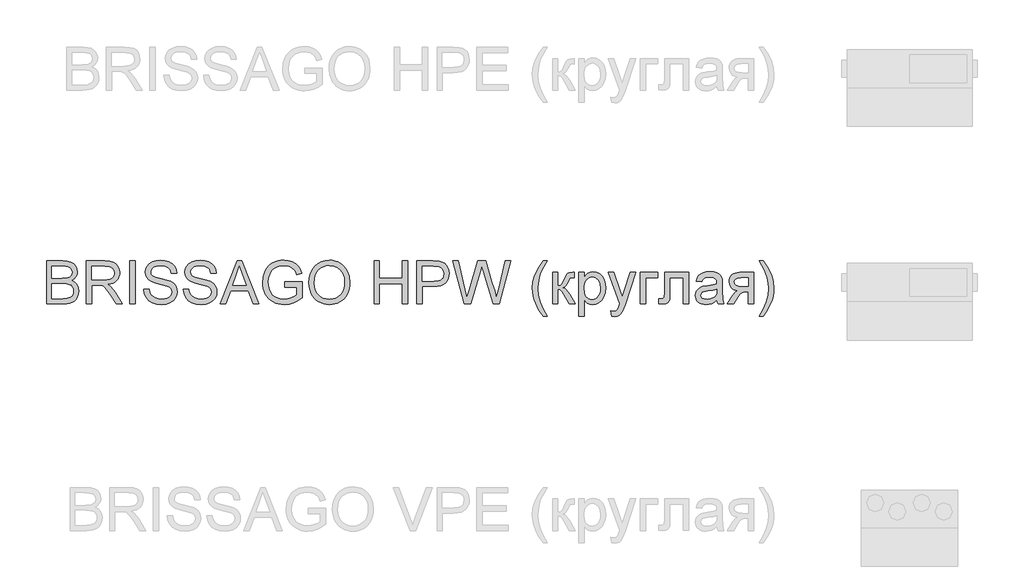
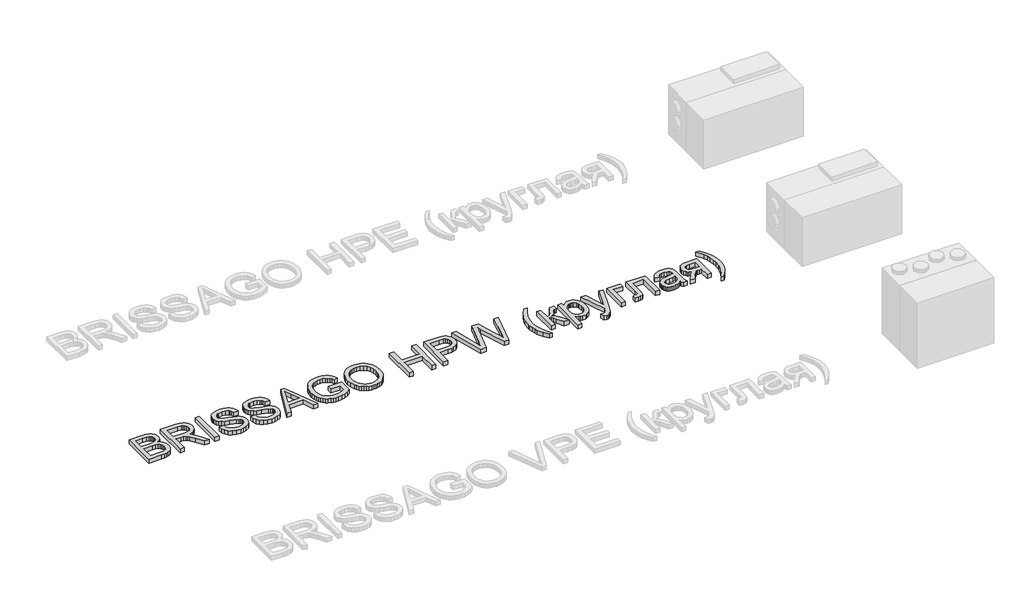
# One storey, part 15 of 28: 1 proxy.
"""IFC4 building model written with IfcOpenShell, lengths in millimetres."""

import ifcopenshell
import ifcopenshell.guid

model = None  # the IFC model being written
_history = None  # IfcOwnerHistory: only IFC2X3 demands one
_inside = {}  # id of a spatial element -> (the spatial element, [elements in it])
_under = {}  # id of a project, library or spatial element -> (it, [spatial elements below it])
_declared = {}  # id of a project -> (the project, [libraries it declares])
_typed = {}  # id of a type object -> (the type object, [elements of that type])
_made_of = {}  # id of a material, layer set ... -> (it, [elements and type objects made of it])


def new_model(schema):
    """Start an empty IFC model of exactly this schema.

    Asked for "IFC4X3", IfcOpenShell would pick the latest addendum, in which some entities
    have other attributes; the version numbers below select the first issue.
    IFC2X3 requires an IfcOwnerHistory on every rooted entity: one is made here for all.
    """
    global model, _history
    if schema == "IFC4X3":
        model = ifcopenshell.file(schema_version=(4, 3, 0, 0))
    else:
        model = ifcopenshell.file(schema=schema)
    _inside.clear()
    _under.clear()
    _declared.clear()
    _typed.clear()
    _made_of.clear()
    _history = None
    if model.schema == "IFC2X3":
        org = make("IfcOrganization", Name="unknown")
        user = make(
            "IfcPersonAndOrganization",
            ThePerson=make("IfcPerson", FamilyName="unknown"),
            TheOrganization=org,
        )
        app = make(
            "IfcApplication",
            ApplicationDeveloper=org,
            Version="unknown",
            ApplicationFullName="unknown",
            ApplicationIdentifier="unknown",
        )
        _history = make(
            "IfcOwnerHistory",
            OwningUser=user,
            OwningApplication=app,
            ChangeAction="ADDED",
            CreationDate=0,
        )
    return model


def make(cls, **values):
    """One entity of the class cls with the attributes given. An attribute that is None is left unset."""
    return model.create_entity(
        cls, **{name: value for name, value in values.items() if value is not None}
    )


def rooted(cls, **values):
    """An entity with a GlobalId (a new one), such as an element, a storey or a relation."""
    return make(cls, GlobalId=ifcopenshell.guid.new(), OwnerHistory=_history, **values)


def si_unit(unit_type, name, prefix=None):
    """IfcSIUnit, for example si_unit("LENGTHUNIT", "METRE", prefix="MILLI")."""
    return make("IfcSIUnit", UnitType=unit_type, Prefix=prefix, Name=name)


def assignment(units):
    """IfcUnitAssignment: the units of a project."""
    return None if units is None else make("IfcUnitAssignment", Units=units)


def point(xyz):
    """IfcCartesianPoint."""
    return None if xyz is None else make("IfcCartesianPoint", Coordinates=xyz)


def direction(xyz):
    """IfcDirection."""
    return None if xyz is None else make("IfcDirection", DirectionRatios=xyz)


def frame(location, z_axis=None, x_axis=None):
    """IfcAxis2Placement3D, a coordinate frame: its origin and axes. An axis left out is left unset."""
    return make(
        "IfcAxis2Placement3D",
        Location=point(location),
        Axis=direction(z_axis),
        RefDirection=direction(x_axis),
    )


def origin():
    """The frame at (0, 0, 0) with its axes left unset."""
    return frame((0.0, 0.0, 0.0))


def origin_with_axes():
    """The frame at (0, 0, 0) with the z axis (0, 0, 1) and the x axis (1, 0, 0) written out."""
    return frame((0.0, 0.0, 0.0), z_axis=(0.0, 0.0, 1.0), x_axis=(1.0, 0.0, 0.0))


def place(relative_to, where):
    """IfcLocalPlacement: puts the frame where relative to a parent placement (None: the world)."""
    return make(
        "IfcLocalPlacement", PlacementRelTo=relative_to, RelativePlacement=where
    )


def context(
    kind, dimensions, precision=None, world=None, true_north=None, identifier=None
):
    """IfcGeometricRepresentationContext, for example the 3D "Model" context."""
    return make(
        "IfcGeometricRepresentationContext",
        ContextIdentifier=identifier,
        ContextType=kind,
        CoordinateSpaceDimension=dimensions,
        Precision=precision,
        WorldCoordinateSystem=world,
        TrueNorth=true_north,
    )


def project(units=None, contexts=None):
    """IfcProject with its units and contexts."""
    return rooted(
        "IfcProject",
        Name="project",
        RepresentationContexts=contexts,
        UnitsInContext=assignment(units),
    )


def spatial(cls, under=None, at=None, **own):
    """A site, building, storey or space (cls), placed at a placement, below another one or the project."""
    s = rooted(cls, ObjectPlacement=at, **own)
    if under is not None:
        _under.setdefault(under.id(), (under, []))[1].append(s)
    return s


def polyline(points):
    """IfcPolyline through the points."""
    return make("IfcPolyline", Points=[point(p) for p in points])


def outline(outer, holes=None, kind="AREA"):
    """IfcArbitraryClosedProfileDef: a profile drawn as a closed curve; with holes, ...WithVoids."""
    if holes is None:
        return make("IfcArbitraryClosedProfileDef", ProfileType=kind, OuterCurve=outer)
    return make(
        "IfcArbitraryProfileDefWithVoids",
        ProfileType=kind,
        OuterCurve=outer,
        InnerCurves=holes,
    )


def extrude(swept, where, along, depth):
    """IfcExtrudedAreaSolid: the profile swept, set in the frame where, extruded along a direction by depth."""
    return make(
        "IfcExtrudedAreaSolid",
        SweptArea=swept,
        Position=where,
        ExtrudedDirection=direction(along),
        Depth=depth,
    )


def shape(context_of_items, identifier, shape_type, items):
    """IfcShapeRepresentation: the items that make up one representation, for example the "Body"."""
    return make(
        "IfcShapeRepresentation",
        ContextOfItems=context_of_items,
        RepresentationIdentifier=identifier,
        RepresentationType=shape_type,
        Items=items,
    )


def made_of(thing, what):
    """Note that an element or type object is made of a material, layer set ...; save() writes the relation."""
    if what is not None:
        _made_of.setdefault(what.id(), (what, []))[1].append(thing)
    return thing


def element(
    cls,
    number,
    at=None,
    inside=None,
    cuts=None,
    type_object=None,
    material=None,
    context=None,
    identifier="Body",
    shape_type=None,
    held_by="IfcProductDefinitionShape",
    body=None,
    shapes=None,
    **own,
):
    """One element of the class cls, such as IfcWall. Its Tag is "e" and its number.

    at: its placement. inside: the storey or other place that contains it. cuts: it is an
    opening in that element (IfcRelVoidsElement). A single representation is given by context,
    identifier, shape_type and body (its items); several are given by shapes. held_by: the class
    of the entity that holds the representations. save() writes the other relations.
    """
    e = rooted(cls, Tag="e%d" % number, ObjectPlacement=at, **own)
    if body is not None:
        shapes = [shape(context, identifier, shape_type, body)]
    if shapes is not None:
        e.Representation = make(held_by, Representations=shapes)
    if inside is not None:
        _inside.setdefault(inside.id(), (inside, []))[1].append(e)
    if cuts is not None:
        rooted(
            "IfcRelVoidsElement", RelatingBuildingElement=cuts, RelatedOpeningElement=e
        )
    if type_object is not None:
        _typed.setdefault(type_object.id(), (type_object, []))[1].append(e)
    return made_of(e, material)


def aggregate(whole, parts):
    """IfcRelAggregates: a whole, such as a stair, and the parts it consists of."""
    return rooted("IfcRelAggregates", RelatingObject=whole, RelatedObjects=parts)


def save(model, path):
    """Write the relations noted so far, then the file.

    IfcRelAggregates (storeys below a building ...), IfcRelContainedInSpatialStructure (elements
    in a storey), IfcRelDefinesByType, IfcRelAssociatesMaterial and IfcRelDeclares: one each for
    every whole, place, type object, material and project.
    """
    for whole, parts in _under.values():
        aggregate(whole, parts)
    for where, things in _inside.values():
        rooted(
            "IfcRelContainedInSpatialStructure",
            RelatedElements=things,
            RelatingStructure=where,
        )
    for kind, things in _typed.values():
        rooted("IfcRelDefinesByType", RelatedObjects=things, RelatingType=kind)
    for what, things in _made_of.values():
        rooted("IfcRelAssociatesMaterial", RelatedObjects=things, RelatingMaterial=what)
    for by, libraries in _declared.values():
        rooted("IfcRelDeclares", RelatingContext=by, RelatedDefinitions=libraries)
    model.write(path)


model = new_model("IFC4")

# Units and contexts
model_context = context("Model", 3, world=origin())
ifc_project = project(units=[si_unit("LENGTHUNIT", "METRE", prefix="MILLI")], contexts=[model_context])

# Site, building, storey
site = spatial("IfcSite", under=ifc_project)
building = spatial("IfcBuilding", under=site)
storey = spatial("IfcBuildingStorey", under=building, Name="Уровень 1", Elevation=0.0)

# Proxy
placement = place(None, origin())
element("IfcBuildingElementProxy", 1, Name="400 мм Arial", ObjectType="400 мм Arial", at=placement, inside=storey, context=model_context, shape_type="SweptSolid", body=[
    extrude(outline(polyline([(-28753.3516036, 3771.3067858), (-28753.3516036, 4173.1320263), (-28600.018388, 4173.1320263), (-28557.8468487, 4170.1767077), (-28524.9214101, 4161.3107516), (-28499.6847052, 4146.3134289), (-28480.5793669, 4124.9640104), (-28468.5496257, 4099.8499329), (-28464.539712, 4073.558633), (-28467.9119636, 4049.3642604), (-28478.0287184, 4026.6168904), (-28494.963553, 4006.7144745), (-28518.7900435, 3991.0549642), (-28490.3282398, 3976.1925316), (-28469.2976524, 3953.5800516), (-28456.311418, 3924.7135777), (-28451.9826732, 3891.0891634), (-28454.9379919, 3863.0688181), (-28463.803948, 3837.0840865), (-28477.0354371, 3814.9866413), (-28493.0873548, 3798.6281553), (-28512.7445161, 3786.782355), (-28536.7917358, 3778.2229673), (-28566.013829, 3773.0358311), (-28601.1956104, 3771.3067858), (-28753.3516036, 3771.3067858)]), holes=[polyline([(-28703.1234486, 4009.8905224), (-28611.3982044, 4009.8905224), (-28557.8345859, 4014.2070044), (-28539.0848669, 4021.6504835), (-28525.6081232, 4032.7973079), (-28517.4779311, 4047.4757995), (-28514.767867, 4065.51428), (-28517.2939901, 4083.025463), (-28524.8723592, 4098.2803031), (-28537.1596178, 4110.187417), (-28553.8124094, 4117.6554215), (-28579.3679454, 4121.5917588), (-28618.3634369, 4122.9038713), (-28703.1234486, 4122.9038713), (-28703.1234486, 4009.8905224)]), polyline([(-28703.1234486, 3821.5349408), (-28600.1164899, 3821.5349408), (-28562.8377811, 3823.4969781), (-28531.2980313, 3834.4353361), (-28519.7220112, 3843.8653779), (-28510.402334, 3856.7535105), (-28504.2587047, 3872.5233854), (-28502.2108283, 3890.5986541), (-28504.614324, 3911.5924532), (-28511.8248111, 3929.6431965), (-28524.418638, 3943.7576024), (-28542.9721533, 3952.9423895), (-28569.2511905, 3957.9823728), (-28605.0215832, 3959.6623673), (-28703.1234486, 3959.6623673), (-28703.1234486, 3821.5349408)])]), origin_with_axes(), (0.0, 0.0, 1.0), 50.0),
    extrude(outline(polyline([(-28382.91896, 3771.3067858), (-28382.91896, 4173.1320263), (-28209.7691676, 4173.1320263), (-28163.2320952, 4170.4219623), (-28129.3746889, 4162.2917702), (-28104.6284933, 4147.2821848), (-28085.4250532, 4123.9339409), (-28073.1010064, 4094.9816278), (-28068.9929907, 4063.1598353), (-28070.694445, 4042.5216553), (-28075.7988077, 4023.5757326), (-28084.3060788, 4006.322067), (-28096.2162584, 3990.7606586), (-28111.6826306, 3977.3881481), (-28130.8584796, 3966.7011761), (-28153.7438054, 3958.6997427), (-28180.3386079, 3953.3838479), (-28151.7909651, 3931.8995394), (-28111.078691, 3880.1998563), (-28044.0751169, 3771.3067858), (-28102.4457268, 3771.3067858), (-28154.7340211, 3854.5952695), (-28192.5032393, 3909.7285178), (-28206.5440687, 3925.804961), (-28219.0397938, 3935.7745631), (-28242.9275981, 3945.3394949), (-28272.0638521, 3947.1053285), (-28332.6908049, 3947.1053285), (-28332.6908049, 3771.3067858), (-28382.91896, 3771.3067858)]), holes=[polyline([(-28332.6908049, 3997.3334836), (-28220.2660672, 3997.3334836), (-28187.9782907, 3999.1115799), (-28162.9255268, 4004.4458688), (-28144.0654432, 4013.6919696), (-28130.3557075, 4027.2055016), (-28122.0047862, 4043.5517249), (-28119.2211458, 4061.2958998), (-28124.5309093, 4085.7968407), (-28140.4601997, 4105.5398411), (-28152.6217653, 4113.1366043), (-28167.8674083, 4118.5628637), (-28207.6109265, 4122.9038713), (-28332.6908049, 4122.9038713), (-28332.6908049, 3997.3334836)])]), origin_with_axes(), (0.0, 0.0, 1.0), 50.0),
    extrude(outline(polyline([(-27974.8152, 3771.3067858), (-27974.8152, 4173.1320263), (-27924.5870449, 4173.1320263), (-27924.5870449, 3771.3067858), (-27974.8152, 3771.3067858)])), origin_with_axes(), (0.0, 0.0, 1.0), 50.0),
    extrude(outline(polyline([(-27842.9662929, 3909.4342122), (-27792.7381378, 3909.4342122), (-27786.9746532, 3881.5610197), (-27776.55133, 3859.1570062), (-27760.2909459, 3841.3760431), (-27737.0162783, 3827.3720018), (-27708.5667373, 3818.2853165), (-27676.7817329, 3815.2564214), (-27648.7981758, 3817.5495525), (-27624.297235, 3824.4289459), (-27604.44387, 3835.3182529), (-27590.4030405, 3849.6411253), (-27582.0521192, 3866.0854504), (-27579.2684788, 3883.339116), (-27581.3531434, 3900.1513232), (-27587.6071373, 3914.682662), (-27600.3113289, 3927.0802852), (-27621.7465865, 3937.4913457), (-27694.8815271, 3956.6702604), (-27742.8901275, 3969.3621892), (-27773.6082741, 3981.4409814), (-27798.611987, 3998.3390277), (-27816.3316365, 4018.8177921), (-27826.8898497, 4042.4358162), (-27830.4092541, 4068.7516416), (-27826.0559839, 4098.1699385), (-27812.996173, 4125.6016726), (-27791.5731782, 4148.8518147), (-27762.1303558, 4165.7253355), (-27726.7891588, 4175.9892432), (-27687.67104, 4179.4105457), (-27645.2910342, 4175.8298276), (-27608.208529, 4165.0876734), (-27577.7478998, 4147.4048122), (-27555.2335217, 4123.0019731), (-27540.9842258, 4093.3997353), (-27535.3188431, 4060.1186774), (-27585.5469981, 4060.1186774), (-27594.7685735, 4090.0887973), (-27603.1317575, 4101.9468603), (-27613.9965391, 4111.7202586), (-27644.0402354, 4124.8168576), (-27685.7090027, 4129.1823907), (-27728.3587887, 4124.8659086), (-27744.6620924, 4119.470306), (-27757.61767, 4111.9164624), (-27774.5402418, 4092.860175), (-27780.1810991, 4070.2231696), (-27776.183448, 4050.9216276), (-27764.190495, 4035.3970074), (-27735.8390559, 4021.5155934), (-27682.1773355, 4007.3398739), (-27626.7988325, 3993.8753928), (-27593.2970455, 3982.1276945), (-27564.6635636, 3963.905273), (-27544.6875712, 3941.4154203), (-27532.9521356, 3914.9033912), (-27529.0403237, 3884.6144403), (-27533.5407468, 3853.651039), (-27547.042016, 3824.5270477), (-27568.9923084, 3799.4620211), (-27598.8398009, 3780.6755139), (-27634.7328209, 3768.9400782), (-27674.8196956, 3765.0282664), (-27724.0300439, 3769.2466466), (-27764.5338515, 3781.9017872), (-27796.7971025, 3803.0427392), (-27821.2857807, 3832.7185535), (-27837.0066046, 3868.8690909), (-27842.9662929, 3909.4342122)])), origin_with_axes(), (0.0, 0.0, 1.0), 50.0),
    extrude(outline(polyline([(-27472.5336492, 3909.4342122), (-27422.3054942, 3909.4342122), (-27416.5420096, 3881.5610197), (-27406.1186864, 3859.1570062), (-27389.8583022, 3841.3760431), (-27366.5836346, 3827.3720018), (-27338.1340937, 3818.2853165), (-27306.3490893, 3815.2564214), (-27278.3655322, 3817.5495525), (-27253.8645913, 3824.4289459), (-27234.0112263, 3835.3182529), (-27219.9703968, 3849.6411253), (-27211.6194755, 3866.0854504), (-27208.8358351, 3883.339116), (-27210.9204997, 3900.1513232), (-27217.1744936, 3914.682662), (-27229.8786852, 3927.0802852), (-27251.3139428, 3937.4913457), (-27324.4488834, 3956.6702604), (-27372.4574838, 3969.3621892), (-27403.1756304, 3981.4409814), (-27428.1793433, 3998.3390277), (-27445.8989928, 4018.8177921), (-27456.457206, 4042.4358162), (-27459.9766105, 4068.7516416), (-27455.6233402, 4098.1699385), (-27442.5635294, 4125.6016726), (-27421.1405345, 4148.8518147), (-27391.6977122, 4165.7253355), (-27356.3565151, 4175.9892432), (-27317.2383963, 4179.4105457), (-27274.8583905, 4175.8298276), (-27237.7758854, 4165.0876734), (-27207.3152562, 4147.4048122), (-27184.8008781, 4123.0019731), (-27170.5515821, 4093.3997353), (-27164.8861994, 4060.1186774), (-27215.1143545, 4060.1186774), (-27224.3359298, 4090.0887973), (-27232.6991138, 4101.9468603), (-27243.5638954, 4111.7202586), (-27273.6075917, 4124.8168576), (-27315.276359, 4129.1823907), (-27357.926145, 4124.8659086), (-27374.2294487, 4119.470306), (-27387.1850263, 4111.9164624), (-27404.1075981, 4092.860175), (-27409.7484554, 4070.2231696), (-27405.7508044, 4050.9216276), (-27393.7578513, 4035.3970074), (-27365.4064122, 4021.5155934), (-27311.7446919, 4007.3398739), (-27256.3661889, 3993.8753928), (-27222.8644018, 3982.1276945), (-27194.2309199, 3963.905273), (-27174.2549275, 3941.4154203), (-27162.5194919, 3914.9033912), (-27158.60768, 3884.6144403), (-27163.1081031, 3853.651039), (-27176.6093723, 3824.5270477), (-27198.5596647, 3799.4620211), (-27228.4071572, 3780.6755139), (-27264.3001772, 3768.9400782), (-27304.387052, 3765.0282664), (-27353.5974002, 3769.2466466), (-27394.1012079, 3781.9017872), (-27426.3644588, 3803.0427392), (-27450.853137, 3832.7185535), (-27466.5739609, 3868.8690909), (-27472.5336492, 3909.4342122)])), origin_with_axes(), (0.0, 0.0, 1.0), 50.0),
    extrude(outline(polyline([(-27130.0600372, 3771.3067858), (-26969.6634873, 4173.1320263), (-26926.891074, 4173.1320263), (-26766.4945241, 3771.3067858), (-26819.5676333, 3771.3067858), (-26865.5774081, 3896.8771734), (-27031.075255, 3896.8771734), (-27076.986928, 3771.3067858), (-27130.0600372, 3771.3067858)]), holes=[polyline([(-27012.6321043, 3947.1053285), (-26883.9224569, 3947.1053285), (-26920.1220453, 4045.893907), (-26948.2772806, 4122.9038713), (-26973.2932563, 4054.5268711), (-27012.6321043, 3947.1053285)])]), origin_with_axes(), (0.0, 0.0, 1.0), 50.0),
    extrude(outline(polyline([(-26524.4772222, 3928.2697704), (-26524.4772222, 3978.4979254), (-26361.2357182, 3978.4979254), (-26361.2357182, 3828.3039695), (-26400.90566, 3800.7128199), (-26441.8264006, 3780.9207686), (-26483.8998381, 3769.0013919), (-26527.0278707, 3765.0282664), (-26555.8790162, 3766.6070933), (-26583.3751296, 3771.343574), (-26609.5162111, 3779.2377084), (-26634.3022605, 3790.2894967), (-26656.9331346, 3804.3333919), (-26676.6086899, 3821.203847), (-26693.3289266, 3840.9008622), (-26707.0938446, 3863.4244373), (-26717.8451959, 3888.0541369), (-26725.5247326, 3914.0695253), (-26730.1324545, 3941.4706026), (-26731.6683619, 3970.2573687), (-26725.549258, 4026.8498823), (-26717.9003782, 4053.6654141), (-26707.1919465, 4079.4937958), (-26693.6140352, 4103.2007247), (-26677.3567167, 4123.651898), (-26658.4199909, 4140.8473156), (-26636.8038581, 4154.7869775), (-26612.9773675, 4165.5597886), (-26587.4095688, 4173.2546537), (-26560.1004621, 4177.8715727), (-26531.0500472, 4179.4105457), (-26489.6755854, 4175.8420904), (-26452.470453, 4165.1367243), (-26421.1391697, 4148.0669997), (-26397.3862556, 4125.4054688), (-26379.813759, 4096.0607484), (-26367.0237283, 4058.941455), (-26413.3278087, 4045.893907), (-26423.6652928, 4072.3691479), (-26436.2345943, 4092.3451402), (-26452.8628605, 4107.4037765), (-26475.3772386, 4119.1269495), (-26502.2203615, 4126.6685304), (-26531.8348621, 4129.1823907), (-26566.5016088, 4126.4723266), (-26596.1406348, 4118.3421345), (-26620.6415757, 4105.8096212), (-26639.8940668, 4089.8925936), (-26654.6706603, 4071.4126547), (-26665.7439083, 4051.1914077), (-26677.5161322, 4013.2750367), (-26681.4402068, 3972.3175079), (-26676.7190545, 3924.2843821), (-26662.5555977, 3884.7615931), (-26639.379032, 3854.0311837), (-26607.6185531, 3832.375197), (-26570.4502089, 3819.5361153), (-26531.0500472, 3815.2564214), (-26496.2606732, 3818.4815203), (-26462.3296905, 3828.1568167), (-26432.8623427, 3841.4864077), (-26411.4638733, 3855.67439), (-26411.4638733, 3928.2697704), (-26524.4772222, 3928.2697704)])), origin_with_axes(), (0.0, 0.0, 1.0), 50.0),
    extrude(outline(polyline([(-26298.4505244, 3966.9219053), (-26295.1027982, 4014.0537203), (-26285.0596197, 4055.7776699), (-26268.3209889, 4092.0937542), (-26244.8869059, 4123.0019731), (-26216.1614534, 4147.6807237), (-26183.5487145, 4165.3084026), (-26147.0486892, 4175.8850099), (-26106.6613775, 4179.4105457), (-26079.6281823, 4177.7550768), (-26053.9561504, 4172.7886698), (-26029.6452818, 4164.5113249), (-26006.6955767, 4152.9230421), (-25985.7508285, 4138.3733092), (-25967.4548306, 4121.2116141), (-25951.807583, 4101.4379569), (-25938.8090859, 4079.0523374), (-25928.5942291, 4054.5636593), (-25921.2979029, 4028.4808258), (-25915.4608419, 3971.532693), (-25916.9967492, 3941.8752728), (-25921.6044712, 3913.8242707), (-25929.2840079, 3887.3796866), (-25940.0353592, 3862.5415206), (-25953.6040734, 3839.9658288), (-25969.7356989, 3820.3086675), (-25988.4302357, 3803.5700367), (-26009.6876836, 3789.7499364), (-26032.6711113, 3778.9342058), (-26056.5435871, 3771.2086839), (-26081.305111, 3766.5733707), (-26106.9556831, 3765.0282664), (-26134.4609936, 3766.735852), (-26160.4702507, 3771.8586087), (-26184.9834543, 3780.3965367), (-26208.0006045, 3792.3496359), (-26228.9208273, 3807.254988), (-26247.1432488, 3824.6496751), (-26262.667869, 3844.5336969), (-26275.4946879, 3866.9070536), (-26292.7115652, 3915.5287906), (-26298.4505244, 3966.9219053)]), holes=[polyline([(-26248.2223693, 3966.431396), (-26245.7115747, 3933.1319441), (-26238.1791908, 3903.5726258), (-26225.6252177, 3877.7534411), (-26208.0496554, 3855.67439), (-26186.6849085, 3837.9915287), (-26162.7633818, 3825.3609136), (-26136.2850752, 3817.7825445), (-26107.2499887, 3815.2564214), (-26077.7182616, 3817.8070699), (-26050.9272553, 3825.4590154), (-26026.8769698, 3838.2122579), (-26005.5674053, 3856.0667974), (-25988.1206016, 3878.6118324), (-25975.6585991, 3905.4365612), (-25968.1813975, 3936.5409839), (-25965.688997, 3971.9251005), (-25969.9564281, 4016.3897709), (-25982.7587216, 4054.8211767), (-26003.7647835, 4086.2505618), (-26032.6435201, 4109.7091704), (-26067.481945, 4124.3140856), (-26106.3670719, 4129.1823907), (-26134.3935486, 4126.8371429), (-26160.3966743, 4119.8013998), (-26184.376449, 4108.0751612), (-26206.3328728, 4091.6584272), (-26224.6595275, 4069.7602514), (-26237.7499951, 4041.5896876), (-26245.6042757, 4007.1467358), (-26248.2223693, 3966.431396)])]), origin_with_axes(), (0.0, 0.0, 1.0), 50.0),
    extrude(outline(polyline([(-25689.4341441, 3771.3067858), (-25689.4341441, 4173.1320263), (-25639.205989, 4173.1320263), (-25639.205989, 4009.8905224), (-25425.7363299, 4009.8905224), (-25425.7363299, 4173.1320263), (-25375.5081749, 4173.1320263), (-25375.5081749, 3771.3067858), (-25425.7363299, 3771.3067858), (-25425.7363299, 3959.6623673), (-25639.205989, 3959.6623673), (-25639.205989, 3771.3067858), (-25689.4341441, 3771.3067858)])), origin_with_axes(), (0.0, 0.0, 1.0), 50.0),
    extrude(outline(polyline([(-25287.6089035, 3771.3067858), (-25287.6089035, 4173.1320263), (-25138.6902718, 4173.1320263), (-25078.6519302, 4169.3060536), (-25051.8823837, 4162.1568802), (-25029.8462522, 4150.5195464), (-25012.1020773, 4133.8667547), (-24998.2084006, 4111.6712077), (-24989.2320799, 4085.4902724), (-24986.239973, 4056.8813159), (-24988.2602583, 4032.2148281), (-24994.3211142, 4009.5226404), (-25004.4225406, 3988.8047527), (-25018.5645377, 3970.061165), (-25037.97951, 3954.5242821), (-25063.8998622, 3943.4265086), (-25096.3255944, 3936.7678444), (-25135.2567065, 3934.5482897), (-25237.3807484, 3934.5482897), (-25237.3807484, 3771.3067858), (-25287.6089035, 3771.3067858)]), holes=[polyline([(-25237.3807484, 3984.7764448), (-25132.3136506, 3984.7764448), (-25087.7754037, 3989.3872325), (-25071.171663, 3995.1507171), (-25058.3448441, 4003.2195955), (-25048.7737808, 4013.3792699), (-25041.9373071, 4025.4151426), (-25036.4681281, 4055.1154823), (-25039.6932269, 4077.6789113), (-25049.3685234, 4096.7106732), (-25064.2922697, 4111.0335456), (-25083.2627179, 4119.470306), (-25133.490873, 4122.9038713), (-25237.3807484, 4122.9038713), (-25237.3807484, 3984.7764448)])]), origin_with_axes(), (0.0, 0.0, 1.0), 50.0),
    extrude(outline(polyline([(-24845.2675925, 3771.3067858), (-24954.8473761, 4173.1320263), (-24903.0495912, 4173.1320263), (-24839.4795824, 3909.0418047), (-24819.8592093, 3827.5191546), (-24798.8654101, 3899.6240257), (-24719.2066955, 4173.1320263), (-24644.5511759, 4173.1320263), (-24586.6710753, 3974.8681564), (-24561.8758289, 3901.2917574), (-24543.6043564, 3827.5191546), (-24524.5725945, 3906.68736), (-24460.4139746, 4173.1320263), (-24408.6161897, 4173.1320263), (-24518.2940752, 3771.3067858), (-24571.9557955, 3771.3067858), (-24668.2918273, 4081.3086804), (-24681.7317829, 4124.571603), (-24696.8394702, 4072.4795125), (-24784.6406397, 3771.3067858), (-24845.2675925, 3771.3067858)])), origin_with_axes(), (0.0, 0.0, 1.0), 50.0),
    extrude(outline(polyline([(-24107.2472592, 3658.2934368), (-24146.1691743, 3712.9116504), (-24178.5673153, 3776.1137772), (-24191.3144265, 3810.1673872), (-24200.4195059, 3844.8341339), (-24205.8825535, 3880.1140172), (-24207.7035694, 3916.0070372), (-24202.2589158, 3978.424349), (-24185.9249552, 4038.1438596), (-24153.5022887, 4105.7850958), (-24107.2472592, 4173.1320263), (-24069.5761429, 4173.1320263), (-24116.5669364, 4093.5714135), (-24132.6065914, 4055.8021954), (-24144.8202737, 4016.4633473), (-24154.3116291, 3966.2106668), (-24157.4754143, 3915.7127316), (-24151.9817098, 3851.3211197), (-24135.5005964, 3786.9540333), (-24108.0320741, 3722.6114723), (-24069.5761429, 3658.2934368), (-24107.2472592, 3658.2934368)])), origin_with_axes(), (0.0, 0.0, 1.0), 50.0),
    extrude(outline(polyline([(-24019.3479878, 4066.3971968), (-23969.1198328, 4066.3971968), (-23969.1198328, 3940.8268091), (-23948.6901193, 3943.083152), (-23935.4708929, 3949.8521807), (-23923.7722455, 3967.5105165), (-23907.9042688, 4002.4347806), (-23884.9974832, 4047.8068933), (-23875.5551787, 4056.967155), (-23864.7884989, 4062.5712241), (-23828.0493503, 4066.3971968), (-23818.4353675, 4066.3971968), (-23818.4353675, 4015.8747361), (-23831.973425, 4016.1690417), (-23847.6697234, 4014.8446666), (-23856.4988913, 4010.871541), (-23873.7648196, 3977.8112124), (-23884.3720838, 3955.7750809), (-23894.0228548, 3942.0530824), (-23905.7092395, 3932.8928208), (-23922.4233448, 3924.5418995), (-23906.5063172, 3917.4724338), (-23890.7364423, 3904.9951028), (-23875.1137203, 3887.1099065), (-23859.638151, 3863.8168448), (-23805.8783288, 3771.3067858), (-23862.9736144, 3771.3067858), (-23915.6543161, 3861.8548075), (-23929.8790866, 3885.9510782), (-23942.1418198, 3900.1635859), (-23954.5271803, 3907.1165556), (-23969.1198328, 3909.4342122), (-23969.1198328, 3771.3067858), (-24019.3479878, 3771.3067858), (-24019.3479878, 4066.3971968)])), origin_with_axes(), (0.0, 0.0, 1.0), 50.0),
    extrude(outline(polyline([(-23774.4857318, 3658.2934368), (-23774.4857318, 4066.3971968), (-23724.2575768, 4066.3971968), (-23724.2575768, 4017.1500604), (-23707.8745653, 4041.4425348), (-23689.5295164, 4058.7943022), (-23668.1433098, 4069.2053627), (-23642.6368248, 4072.6757162), (-23608.6690539, 4067.8196739), (-23578.9687141, 4053.2515469), (-23554.7866043, 4029.854252), (-23537.3735232, 3998.510706), (-23526.8520982, 3961.5017773), (-23523.3449565, 3921.1083342), (-23527.3058193, 3878.1519799), (-23539.1884077, 3839.7328369), (-23558.6125771, 3807.8006797), (-23585.1981826, 3784.3052829), (-23616.1615839, 3769.8475205), (-23648.7191404, 3765.0282664), (-23671.809867, 3768.2533652), (-23692.4235215, 3777.9286617), (-23710.0695945, 3792.5335769), (-23724.2575768, 3810.5475319), (-23724.2575768, 3658.2934368), (-23774.4857318, 3658.2934368)]), holes=[polyline([(-23724.2575768, 3916.4975465), (-23718.825186, 3871.4687903), (-23712.0346975, 3854.0311837), (-23702.5280136, 3839.9780915), (-23678.4807938, 3821.436839), (-23664.7189415, 3816.8015258), (-23649.7982609, 3815.2564214), (-23634.6629825, 3816.8567081), (-23620.6497442, 3821.6575682), (-23607.7585459, 3829.6590016), (-23595.9893878, 3840.8610083), (-23586.1822669, 3855.4230039), (-23579.1771806, 3873.504404), (-23574.9741288, 3895.1052085), (-23573.5731115, 3920.2254174), (-23579.0422905, 3965.0089189), (-23585.8787643, 3982.5814156), (-23595.4498275, 3996.9410761), (-23619.4602591, 4016.0709399), (-23633.0657615, 4020.8534058), (-23647.7381218, 4022.4475611), (-23662.3644968, 4020.7522383), (-23676.1263491, 4015.6662697), (-23701.0564856, 3995.3223953), (-23711.206963, 3980.2239051), (-23718.457304, 3962.0536003), (-23722.8075086, 3940.8114807), (-23724.2575768, 3916.4975465)])]), origin_with_axes(), (0.0, 0.0, 1.0), 50.0),
    extrude(outline(polyline([(-23466.838282, 3658.2934368), (-23473.1168014, 3706.6576565), (-23447.6103164, 3702.2430725), (-23434.1948863, 3703.6287614), (-23423.7715631, 3707.7858279), (-23409.1543852, 3723.2368717), (-23395.420124, 3760.221275), (-23391.4960494, 3772.3859063), (-23498.2308789, 4066.3971968), (-23445.2558716, 4066.3971968), (-23388.6510953, 3902.5670816), (-23368.9326204, 3837.0350356), (-23349.2141454, 3894.9151361), (-23291.0397392, 4066.3971968), (-23238.4571394, 4066.3971968), (-23341.1697925, 3764.2434514), (-23367.8534998, 3698.7114054), (-23381.5141846, 3677.7911826), (-23396.9897539, 3663.296632), (-23414.9669207, 3654.8353461), (-23436.1323981, 3652.0149174), (-23466.838282, 3658.2934368)])), origin_with_axes(), (0.0, 0.0, 1.0), 50.0),
    extrude(outline(polyline([(-23196.8619485, 4066.3971968), (-23033.6204445, 4066.3971968), (-23033.6204445, 4016.1690417), (-23146.6337934, 4016.1690417), (-23146.6337934, 3771.3067858), (-23196.8619485, 3771.3067858), (-23196.8619485, 4066.3971968)])), origin_with_axes(), (0.0, 0.0, 1.0), 50.0),
    extrude(outline(polyline([(-22970.8352506, 4066.3971968), (-22744.8085528, 4066.3971968), (-22744.8085528, 3771.6010913), (-22795.0367079, 3771.6010913), (-22795.0367079, 4016.1690417), (-22920.6070956, 4016.1690417), (-22920.6070956, 3875.3928649), (-22923.9916099, 3810.44943), (-22930.331443, 3795.746413), (-22942.5819134, 3783.0299587), (-22961.1722169, 3774.237579), (-22986.5315491, 3771.3067858), (-23027.3419251, 3773.8574343), (-23027.3419251, 3821.5349408), (-23004.8765979, 3821.5349408), (-22982.1660161, 3824.6251496), (-22973.0915936, 3834.4353361), (-22970.8352506, 3878.237819), (-22970.8352506, 4066.3971968)])), origin_with_axes(), (0.0, 0.0, 1.0), 50.0),
    extrude(outline(polyline([(-22481.1107387, 3808.9779021), (-22505.1089075, 3788.4010358), (-22529.8183148, 3774.9365548), (-22555.8030464, 3767.5053385), (-22583.627188, 3765.0282664), (-22605.9913476, 3766.5181884), (-22625.6025236, 3770.9879547), (-22642.4607161, 3778.4375651), (-22656.5659249, 3788.8670197), (-22667.7035523, 3801.6141308), (-22675.6590005, 3816.0167109), (-22680.4322693, 3832.07476), (-22682.023359, 3849.7882781), (-22679.6198633, 3870.610399), (-22672.4093762, 3889.5195335), (-22661.2870772, 3905.7063413), (-22647.1481458, 3918.361482), (-22630.5321424, 3927.9264138), (-22611.9786271, 3934.8425953), (-22568.5195007, 3942.396439), (-22517.1631742, 3950.3426901), (-22481.4050443, 3959.6623673), (-22481.1107387, 3970.8459799), (-22484.5688294, 3993.2622562), (-22494.9431017, 4007.928485), (-22518.1441928, 4018.8177921), (-22550.4687575, 4022.4475611), (-22580.3898264, 4020.0318027), (-22601.2855238, 4012.7845274), (-22615.5348197, 3999.38136), (-22625.5166845, 3978.4979254), (-22675.7448396, 3984.7764448), (-22667.0260363, 4012.2449671), (-22654.0152764, 4033.8273775), (-22635.4985493, 4050.3330164), (-22610.2618444, 4062.5712241), (-22579.396545, 4070.1495932), (-22543.9940344, 4072.6757162), (-22510.0385262, 4070.4438988), (-22483.1218269, 4063.7484465), (-22462.8270035, 4053.6807425), (-22448.7371231, 4041.3321702), (-22439.3929204, 4026.0650674), (-22433.3351302, 4007.241772), (-22430.8825836, 3963.2921363), (-22430.8825836, 3900.8012481), (-22428.3319351, 3813.5396388), (-22418.3255448, 3771.3067858), (-22468.5536999, 3771.3067858), (-22476.5980529, 3788.7689178), (-22481.1107387, 3808.9779021)]), holes=[polyline([(-22481.1107387, 3909.4342122), (-22514.8577804, 3901.0710282), (-22562.1428795, 3894.0322193), (-22605.3567512, 3885.8897645), (-22616.6016775, 3880.3224837), (-22624.9280733, 3872.6460127), (-22630.0784212, 3863.4489628), (-22631.7952039, 3853.3199452), (-22628.0550703, 3838.3839362), (-22616.8346694, 3826.1457285), (-22598.379256, 3817.9787482), (-22572.9340847, 3815.2564214), (-22545.9560717, 3818.2607911), (-22522.1173184, 3827.2739), (-22502.7912509, 3840.55444), (-22489.3512954, 3856.361103), (-22483.391607, 3872.6460127), (-22481.4050443, 3895.2094417), (-22481.1107387, 3909.4342122)])]), origin_with_axes(), (0.0, 0.0, 1.0), 50.0),
    extrude(outline(polyline([(-22135.7921725, 4066.3971968), (-22135.7921725, 3771.3067858), (-22186.0203276, 3771.3067858), (-22186.0203276, 3884.3201347), (-22213.390748, 3884.3201347), (-22235.2184131, 3882.7259794), (-22250.6694569, 3877.9435134), (-22265.556415, 3864.037574), (-22285.6918228, 3835.0729982), (-22325.7173839, 3771.3067858), (-22383.7936882, 3771.3067858), (-22333.3693294, 3851.9465191), (-22311.100206, 3880.8865694), (-22290.5969161, 3893.7379137), (-22324.932569, 3904.2593388), (-22338.2744227, 3913.0701126), (-22349.0656279, 3924.2475939), (-22363.3394493, 3950.8331994), (-22368.0973897, 3981.1466758), (-22366.4725776, 3999.2342072), (-22361.5981412, 4015.5313796), (-22353.4740804, 4030.038193), (-22342.1003954, 4042.7546473), (-22327.6487644, 4053.0982627), (-22310.2908656, 4060.4865594), (-22290.026699, 4064.9195375), (-22266.8562647, 4066.3971968), (-22135.7921725, 4066.3971968)]), holes=[polyline([(-22186.0203276, 4016.1690417), (-22252.2390867, 4016.1690417), (-22286.4398496, 4013.262774), (-22305.8517562, 4004.5439707), (-22314.864865, 3991.9256183), (-22317.8692347, 3977.3207031), (-22313.442388, 3958.1785766), (-22300.161848, 3944.8980365), (-22275.6241189, 3937.1357264), (-22237.4257051, 3934.5482897), (-22186.0203276, 3934.5482897), (-22186.0203276, 4016.1690417)])]), origin_with_axes(), (0.0, 0.0, 1.0), 50.0),
    extrude(outline(polyline([(-22047.8929011, 3658.2934368), (-22085.5640175, 3658.2934368), (-22047.1080862, 3722.6114723), (-22019.6395639, 3786.9540333), (-22003.1584505, 3851.3211197), (-21997.6647461, 3915.7127316), (-22000.8285312, 3965.8427848), (-22010.3198867, 4015.5804305), (-22022.3128397, 4054.992855), (-22038.2789183, 4092.7865986), (-22085.5640175, 4173.1320263), (-22047.8929011, 4173.1320263), (-22001.6378716, 4105.7850958), (-21969.2152051, 4038.1438596), (-21952.8812445, 3978.424349), (-21947.436591, 3916.0070372), (-21949.2668039, 3880.1140172), (-21954.7574427, 3844.8341339), (-21963.9085073, 3810.1673872), (-21976.7199978, 3776.1137772), (-22009.1549271, 3712.9116504), (-22047.8929011, 3658.2934368)])), origin_with_axes(), (0.0, 0.0, 1.0), 50.0),
])

save(model, "model.ifc")
